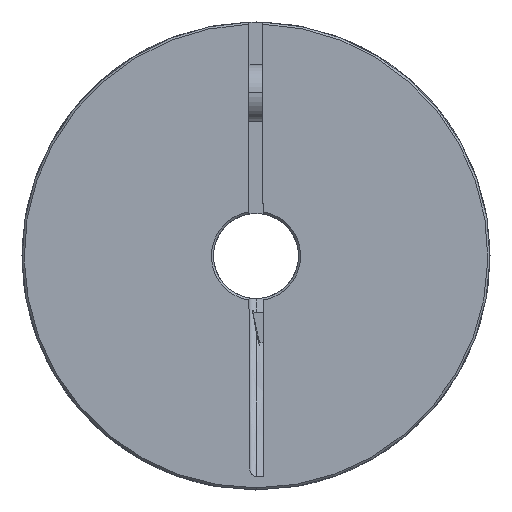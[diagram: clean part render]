
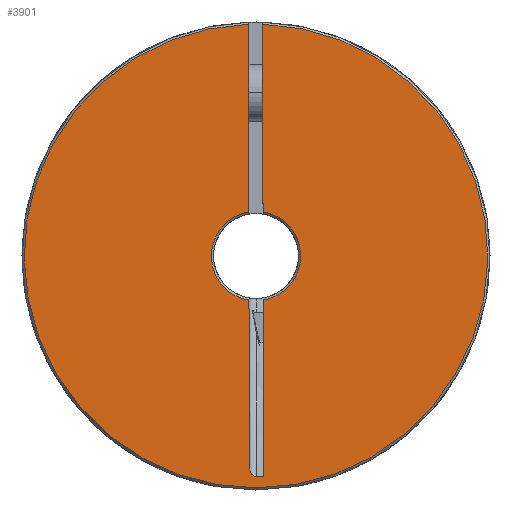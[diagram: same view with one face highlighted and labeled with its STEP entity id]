
A CAD part, left-side view. The second image highlights one B-rep face of the part: STEP entity #3901.
In plain terms, the highlighted planar face has unit normal (-1, 0, 0) as drawn and (0, 0, 1) by its records, which use the part's own axes.
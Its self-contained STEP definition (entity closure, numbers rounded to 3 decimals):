
#206 = EDGE_CURVE ( 'NONE', #4236, #1656, #2510, .T. ) ;
#613 = VERTEX_POINT ( 'NONE', #2279 ) ;
#679 = ORIENTED_EDGE ( 'NONE', *, *, #792, .T. ) ;
#704 = VERTEX_POINT ( 'NONE', #3077 ) ;
#720 = EDGE_CURVE ( 'NONE', #1656, #704, #3249, .T. ) ;
#759 = VERTEX_POINT ( 'NONE', #3551 ) ;
#763 = ORIENTED_EDGE ( 'NONE', *, *, #720, .T. ) ;
#792 = EDGE_CURVE ( 'NONE', #704, #759, #3690, .T. ) ;
#846 = ORIENTED_EDGE ( 'NONE', *, *, #206, .T. ) ;
#877 = EDGE_CURVE ( 'NONE', #4804, #613, #4085, .T. ) ;
#930 = EDGE_CURVE ( 'NONE', #4804, #4236, #1392, .T. ) ;
#970 = ORIENTED_EDGE ( 'NONE', *, *, #930, .T. ) ;
#973 = EDGE_CURVE ( 'NONE', #1054, #1150, #1539, .T. ) ;
#1013 = ORIENTED_EDGE ( 'NONE', *, *, #973, .T. ) ;
#1019 = ORIENTED_EDGE ( 'NONE', *, *, #877, .F. ) ;
#1054 = VERTEX_POINT ( 'NONE', #1887 ) ;
#1064 = EDGE_CURVE ( 'NONE', #1164, #613, #1997, .T. ) ;
#1075 = EDGE_CURVE ( 'NONE', #1054, #1156, #2100, .T. ) ;
#1100 = ORIENTED_EDGE ( 'NONE', *, *, #1064, .T. ) ;
#1107 = ORIENTED_EDGE ( 'NONE', *, *, #1075, .F. ) ;
#1150 = VERTEX_POINT ( 'NONE', #2679 ) ;
#1156 = VERTEX_POINT ( 'NONE', #2736 ) ;
#1164 = VERTEX_POINT ( 'NONE', #2802 ) ;
#1186 = EDGE_CURVE ( 'NONE', #1164, #1150, #2939, .T. ) ;
#1219 = ORIENTED_EDGE ( 'NONE', *, *, #1186, .F. ) ;
#1392 = CIRCLE ( 'NONE', #1393, 32.7 ) ;
#1393 = AXIS2_PLACEMENT_3D ( 'NONE', #1394, #1395, #1396 ) ;
#1394 = CARTESIAN_POINT ( 'NONE',  ( 0., 0., 24. ) ) ;
#1395 = DIRECTION ( 'NONE',  ( 0., 0., 1. ) ) ;
#1396 = DIRECTION ( 'NONE',  ( 1., 0., 0. ) ) ;
#1539 = B_SPLINE_CURVE_WITH_KNOTS ( 'NONE', 3,
 ( #1540, #1541, #1542, #1543, #1544, #1545, #1546, #1547, #1548, #1549 ),
 .UNSPECIFIED., .F., .F.,
 ( 4, 2, 2, 2, 4 ),
 ( 0., 0., 0.001, 0.001, 0.002 ),
 .UNSPECIFIED. ) ;
#1540 = CARTESIAN_POINT ( 'NONE',  ( -31.103, 0., 24. ) ) ;
#1541 = CARTESIAN_POINT ( 'NONE',  ( -31.103, 0.155, 24. ) ) ;
#1542 = CARTESIAN_POINT ( 'NONE',  ( -31.054, 0.305, 24. ) ) ;
#1543 = CARTESIAN_POINT ( 'NONE',  ( -30.932, 0.498, 24. ) ) ;
#1544 = CARTESIAN_POINT ( 'NONE',  ( -30.882, 0.558, 24. ) ) ;
#1545 = CARTESIAN_POINT ( 'NONE',  ( -30.774, 0.665, 24. ) ) ;
#1546 = CARTESIAN_POINT ( 'NONE',  ( -30.714, 0.712, 24. ) ) ;
#1547 = CARTESIAN_POINT ( 'NONE',  ( -30.394, 0.924, 24. ) ) ;
#1548 = CARTESIAN_POINT ( 'NONE',  ( -30.089, 1., 24. ) ) ;
#1549 = CARTESIAN_POINT ( 'NONE',  ( -29.782, 1., 24. ) ) ;
#1656 = VERTEX_POINT ( 'NONE', #3814 ) ;
#1887 = CARTESIAN_POINT ( 'NONE',  ( -31.103, 0., 24. ) ) ;
#1997 = CIRCLE ( 'NONE', #1998, 6.3 ) ;
#1998 = AXIS2_PLACEMENT_3D ( 'NONE', #1999, #2000, #2001 ) ;
#1999 = CARTESIAN_POINT ( 'NONE',  ( 0., 0., 24. ) ) ;
#2000 = DIRECTION ( 'NONE',  ( 0., 0., -1. ) ) ;
#2001 = DIRECTION ( 'NONE',  ( 1., 0., 0. ) ) ;
#2100 = LINE ( 'NONE', #2101, #2102 ) ;
#2101 = CARTESIAN_POINT ( 'NONE',  ( -31.103, -1., 24. ) ) ;
#2102 = VECTOR ( 'NONE', #2103, 1000. ) ;
#2103 = DIRECTION ( 'NONE',  ( 0., -1., 0. ) ) ;
#2114 = FACE_OUTER_BOUND ( 'NONE', #3776, .T. ) ;
#2115 = PLANE ( 'NONE',  #2116 ) ;
#2116 = AXIS2_PLACEMENT_3D ( 'NONE', #2117, #2118, #2119 ) ;
#2117 = CARTESIAN_POINT ( 'NONE',  ( 0., 0., 24. ) ) ;
#2118 = DIRECTION ( 'NONE',  ( 0., 0., 1. ) ) ;
#2119 = DIRECTION ( 'NONE',  ( 1., 0., 0. ) ) ;
#2279 = CARTESIAN_POINT ( 'NONE',  ( 6.22, 1., 24. ) ) ;
#2426 = CARTESIAN_POINT ( 'NONE',  ( -32.7, 0., 24. ) ) ;
#2510 = CIRCLE ( 'NONE', #2511, 32.7 ) ;
#2511 = AXIS2_PLACEMENT_3D ( 'NONE', #2512, #2513, #2516 ) ;
#2512 = CARTESIAN_POINT ( 'NONE',  ( 0., 0., 24. ) ) ;
#2513 = DIRECTION ( 'NONE',  ( 0., 0., 1. ) ) ;
#2516 = DIRECTION ( 'NONE',  ( 1., 0., 0. ) ) ;
#2679 = CARTESIAN_POINT ( 'NONE',  ( -29.782, 1., 24. ) ) ;
#2736 = CARTESIAN_POINT ( 'NONE',  ( -31.103, -1., 24. ) ) ;
#2802 = CARTESIAN_POINT ( 'NONE',  ( -6.22, 1., 24. ) ) ;
#2836 = CARTESIAN_POINT ( 'NONE',  ( 32.685, 1., 24. ) ) ;
#2889 = LINE ( 'NONE', #2890, #2891 ) ;
#2890 = CARTESIAN_POINT ( 'NONE',  ( 0., -1., 24. ) ) ;
#2891 = VECTOR ( 'NONE', #2892, 1000. ) ;
#2892 = DIRECTION ( 'NONE',  ( -1., 0., 0. ) ) ;
#2939 = LINE ( 'NONE', #2940, #2941 ) ;
#2940 = CARTESIAN_POINT ( 'NONE',  ( 0., 1., 24. ) ) ;
#2941 = VECTOR ( 'NONE', #2942, 1000. ) ;
#2942 = DIRECTION ( 'NONE',  ( -1., 0., 0. ) ) ;
#3077 = CARTESIAN_POINT ( 'NONE',  ( 6.22, -1., 24. ) ) ;
#3249 = LINE ( 'NONE', #3250, #3251 ) ;
#3250 = CARTESIAN_POINT ( 'NONE',  ( 0., -1., 24. ) ) ;
#3251 = VECTOR ( 'NONE', #3253, 1000. ) ;
#3253 = DIRECTION ( 'NONE',  ( -1., 0., 0. ) ) ;
#3551 = CARTESIAN_POINT ( 'NONE',  ( -6.22, -1., 24. ) ) ;
#3690 = CIRCLE ( 'NONE', #3691, 6.3 ) ;
#3691 = AXIS2_PLACEMENT_3D ( 'NONE', #3692, #3693, #3694 ) ;
#3692 = CARTESIAN_POINT ( 'NONE',  ( 0., 0., 24. ) ) ;
#3693 = DIRECTION ( 'NONE',  ( 0., 0., -1. ) ) ;
#3694 = DIRECTION ( 'NONE',  ( 1., 0., 0. ) ) ;
#3776 = EDGE_LOOP ( 'NONE', ( #1219, #1100, #1019, #970, #846, #763, #679, #4836, #1107, #1013 ) ) ;
#3814 = CARTESIAN_POINT ( 'NONE',  ( 32.685, -1., 24. ) ) ;
#3901 = ADVANCED_FACE ( 'NONE', ( #2114 ), #2115, .T. ) ;
#4085 = LINE ( 'NONE', #4086, #4087 ) ;
#4086 = CARTESIAN_POINT ( 'NONE',  ( 0., 1., 24. ) ) ;
#4087 = VECTOR ( 'NONE', #4088, 1000. ) ;
#4088 = DIRECTION ( 'NONE',  ( -1., 0., 0. ) ) ;
#4236 = VERTEX_POINT ( 'NONE', #2426 ) ;
#4804 = VERTEX_POINT ( 'NONE', #2836 ) ;
#4810 = EDGE_CURVE ( 'NONE', #759, #1156, #2889, .T. ) ;
#4836 = ORIENTED_EDGE ( 'NONE', *, *, #4810, .T. ) ;
